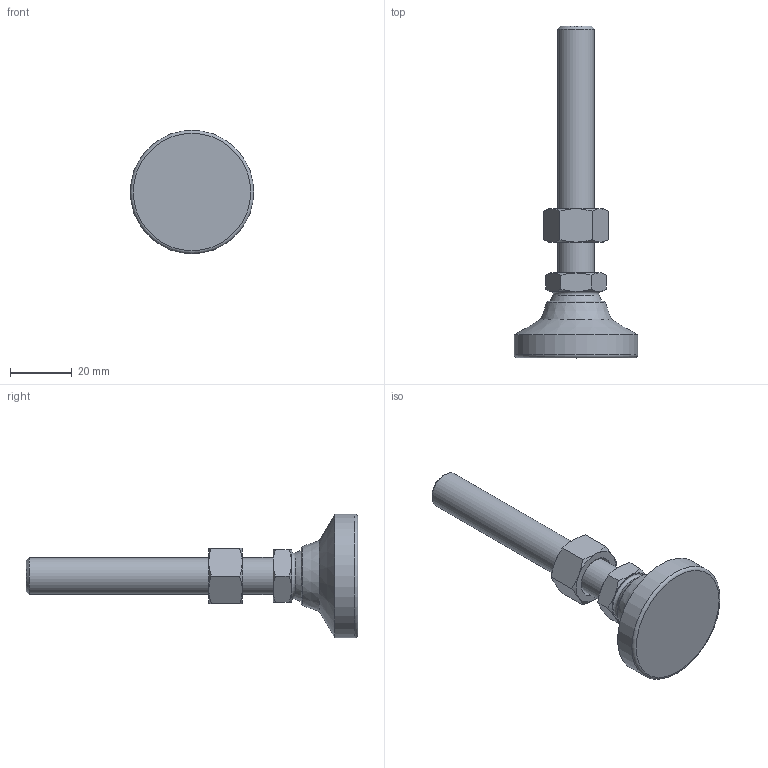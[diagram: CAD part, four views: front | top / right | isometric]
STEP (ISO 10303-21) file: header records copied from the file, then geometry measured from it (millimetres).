
FILE_DESCRIPTION( ( 'STEP AP214' ), ' ' );
FILE_NAME( 'O:/ganter_2015/teil_2/2_5/gn343_2/gn343_2_ks/Levelling foot with threaded stud GN 343.2-40-M12-80-KS-(0).stp', '2015-10-26T09:10:22', ( '' ), ( '' ), ' ', 'PARTsolutions', ' ' );
FILE_SCHEMA( ( 'AUTOMOTIVE_DESIGN { 1 0 10303 214 1 1 1 1 }' ) );
Length unit declared in the file: millimetre
Products named in the file (4): Levelling foot with threaded stud GN 343.2-40-M12-80-KS-(0); _Levelling foot with threaded stud GN 343.2-40-M12-80-KS-(0)_foot; _Gelenkfuss mit Schraube GN 343.2-40-M12-80-KS-(0)_screw; _GLevelling foot with threaded stud GN 343.2-40-M12-80-KS-(0)_nut
Assembly tree (3 placements, depth 2):
  Levelling foot with threaded stud GN 343.2-40-M12-80-KS-(0)
    _Levelling foot with threaded stud GN 343.2-40-M12-80-KS-(0)_foot
    _Gelenkfuss mit Schraube GN 343.2-40-M12-80-KS-(0)_screw
    _GLevelling foot with threaded stud GN 343.2-40-M12-80-KS-(0)_nut
Bounding box: 40 x 107.5 x 40 mm (x, y, z)
Volume: 28614.8 mm3; surface area: 9976.7 mm2
Topology: 3 solids, 3 shells, 56 faces, 117 edges, 68 vertices
Faces by surface type: cone 29, plane 19, torus 3, cylinder 3, sphere 2
Full cylindrical faces by diameter (mm): 10.106 x1, 12 x1, 40 x1
Entity records: 2066 total; most frequent: CARTESIAN_POINT 498, DIRECTION 212, ORIENTED_EDGE 200, AXIS2_PLACEMENT_3D 100, EDGE_CURVE 100, EDGE_LOOP 72, VERTEX_POINT 66, FACE_OUTER_BOUND 62
